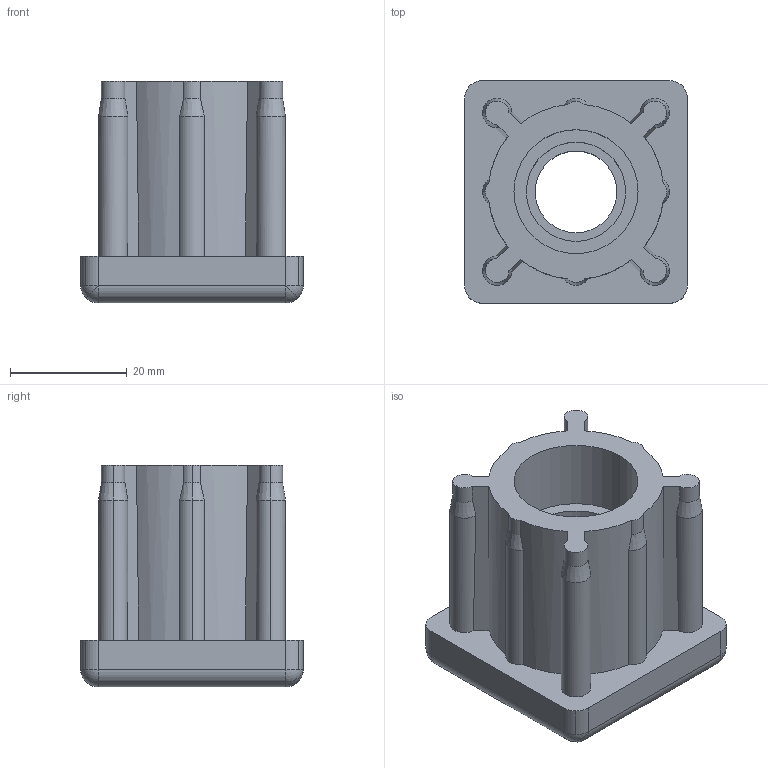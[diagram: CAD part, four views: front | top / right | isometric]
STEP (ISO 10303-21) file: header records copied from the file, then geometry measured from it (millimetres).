
FILE_DESCRIPTION (( 'STEP AP214' ), '1' );
FILE_NAME ('42006850214.STEP', '2020-02-26T11:18:17', ( '' ), ( '' ), 'SwSTEP 2.0', 'SolidWorks 2018', '' );
FILE_SCHEMA (( 'AUTOMOTIVE_DESIGN' ));
Length unit declared in the file: millimetre
Products named in the file (4): BC_M14.stp; Component1.stp; 42006850214.stp; 42006850214
Assembly tree (3 placements, depth 3):
  42006850214
    42006850214.stp
      Component1.stp
      BC_M14.stp
Bounding box: 38.1 x 38.1 x 38 mm (x, y, z)
Volume: 26641.2 mm3; surface area: 11921.3 mm2
Topology: 2 solids, 2 shells, 129 faces, 312 edges, 190 vertices
Faces by surface type: cylinder 70, cone 26, plane 19, sphere 8, torus 6
Entity records: 3974 total; most frequent: CARTESIAN_POINT 746, DIRECTION 724, ORIENTED_EDGE 624, EDGE_CURVE 312, AXIS2_PLACEMENT_3D 308, VERTEX_POINT 190, CIRCLE 172, EDGE_LOOP 136
